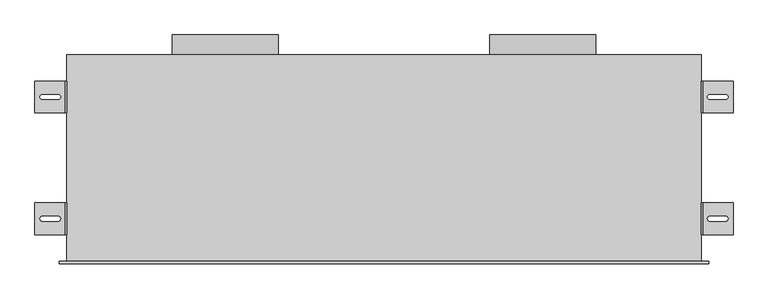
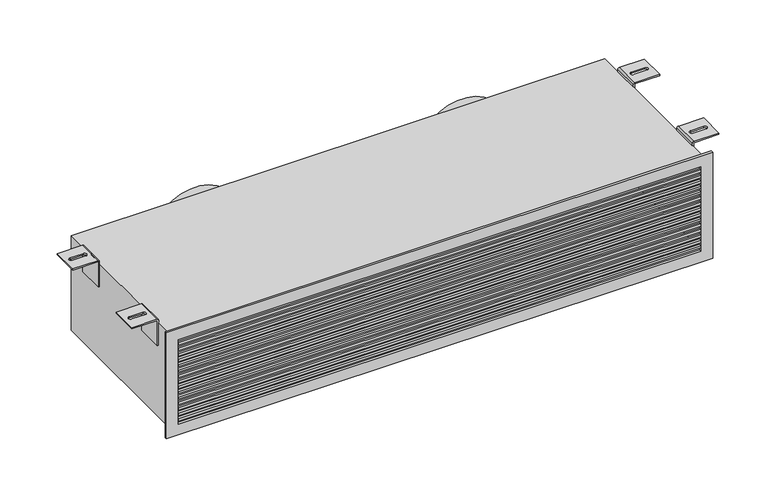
"""IFC4 building model written with IfcOpenShell, lengths in millimetres: air terminal geometry, EOL - Mural - 2 piquages : EOL-M2x200-1200x225-2."""

import ifcopenshell
import ifcopenshell.guid

model = None  # the IFC model being written
_history = None  # IfcOwnerHistory: only IFC2X3 demands one
_inside = {}  # id of a spatial element -> (the spatial element, [elements in it])
_under = {}  # id of a project, library or spatial element -> (it, [spatial elements below it])
_declared = {}  # id of a project -> (the project, [libraries it declares])
_typed = {}  # id of a type object -> (the type object, [elements of that type])
_made_of = {}  # id of a material, layer set ... -> (it, [elements and type objects made of it])


def new_model(schema):
    """Start an empty IFC model of exactly this schema.

    Asked for "IFC4X3", IfcOpenShell would pick the latest addendum, in which some entities
    have other attributes; the version numbers below select the first issue.
    IFC2X3 requires an IfcOwnerHistory on every rooted entity: one is made here for all.
    """
    global model, _history
    if schema == "IFC4X3":
        model = ifcopenshell.file(schema_version=(4, 3, 0, 0))
    else:
        model = ifcopenshell.file(schema=schema)
    _inside.clear()
    _under.clear()
    _declared.clear()
    _typed.clear()
    _made_of.clear()
    _history = None
    if model.schema == "IFC2X3":
        org = make("IfcOrganization", Name="unknown")
        user = make(
            "IfcPersonAndOrganization",
            ThePerson=make("IfcPerson", FamilyName="unknown"),
            TheOrganization=org,
        )
        app = make(
            "IfcApplication",
            ApplicationDeveloper=org,
            Version="unknown",
            ApplicationFullName="unknown",
            ApplicationIdentifier="unknown",
        )
        _history = make(
            "IfcOwnerHistory",
            OwningUser=user,
            OwningApplication=app,
            ChangeAction="ADDED",
            CreationDate=0,
        )
    return model


def make(cls, **values):
    """One entity of the class cls with the attributes given. An attribute that is None is left unset."""
    return model.create_entity(
        cls, **{name: value for name, value in values.items() if value is not None}
    )


def rooted(cls, **values):
    """An entity with a GlobalId (a new one), such as an element, a storey or a relation."""
    return make(cls, GlobalId=ifcopenshell.guid.new(), OwnerHistory=_history, **values)


def si_unit(unit_type, name, prefix=None):
    """IfcSIUnit, for example si_unit("LENGTHUNIT", "METRE", prefix="MILLI")."""
    return make("IfcSIUnit", UnitType=unit_type, Prefix=prefix, Name=name)


def assignment(units):
    """IfcUnitAssignment: the units of a project."""
    return None if units is None else make("IfcUnitAssignment", Units=units)


def point(xyz):
    """IfcCartesianPoint."""
    return None if xyz is None else make("IfcCartesianPoint", Coordinates=xyz)


def direction(xyz):
    """IfcDirection."""
    return None if xyz is None else make("IfcDirection", DirectionRatios=xyz)


def frame(location, z_axis=None, x_axis=None):
    """IfcAxis2Placement3D, a coordinate frame: its origin and axes. An axis left out is left unset."""
    return make(
        "IfcAxis2Placement3D",
        Location=point(location),
        Axis=direction(z_axis),
        RefDirection=direction(x_axis),
    )


def frame_2d(location, x_axis=None):
    """IfcAxis2Placement2D, a coordinate frame in the plane: its origin and x axis."""
    return make(
        "IfcAxis2Placement2D", Location=point(location), RefDirection=direction(x_axis)
    )


def origin():
    """The frame at (0, 0, 0) with its axes left unset."""
    return frame((0.0, 0.0, 0.0))


def place(relative_to, where):
    """IfcLocalPlacement: puts the frame where relative to a parent placement (None: the world)."""
    return make(
        "IfcLocalPlacement", PlacementRelTo=relative_to, RelativePlacement=where
    )


def context(
    kind, dimensions, precision=None, world=None, true_north=None, identifier=None
):
    """IfcGeometricRepresentationContext, for example the 3D "Model" context."""
    return make(
        "IfcGeometricRepresentationContext",
        ContextIdentifier=identifier,
        ContextType=kind,
        CoordinateSpaceDimension=dimensions,
        Precision=precision,
        WorldCoordinateSystem=world,
        TrueNorth=true_north,
    )


def project(units=None, contexts=None):
    """IfcProject with its units and contexts."""
    return rooted(
        "IfcProject",
        Name="project",
        RepresentationContexts=contexts,
        UnitsInContext=assignment(units),
    )


def spatial(cls, under=None, at=None, **own):
    """A site, building, storey or space (cls), placed at a placement, below another one or the project."""
    s = rooted(cls, ObjectPlacement=at, **own)
    if under is not None:
        _under.setdefault(under.id(), (under, []))[1].append(s)
    return s


def polyline(points):
    """IfcPolyline through the points."""
    return make("IfcPolyline", Points=[point(p) for p in points])


def circle_curve(where, radius):
    """IfcCircle in the frame where."""
    return make("IfcCircle", Position=where, Radius=radius)


def ellipse_curve(where, semi_axis1, semi_axis2):
    """IfcEllipse in the frame where."""
    return make(
        "IfcEllipse", Position=where, SemiAxis1=semi_axis1, SemiAxis2=semi_axis2
    )


def trimmed(basis, trim1, trim2, sense, master):
    """IfcTrimmedCurve: the piece of a basis curve between two trims."""
    return make(
        "IfcTrimmedCurve",
        BasisCurve=basis,
        Trim1=trim1,
        Trim2=trim2,
        SenseAgreement=sense,
        MasterRepresentation=master,
    )


def segment(curve, same_sense, transition):
    """IfcCompositeCurveSegment."""
    return make(
        "IfcCompositeCurveSegment",
        Transition=transition,
        SameSense=same_sense,
        ParentCurve=curve,
    )


def composite_curve(segments, self_intersect=None):
    """IfcCompositeCurve: segments joined end to end."""
    return make("IfcCompositeCurve", Segments=segments, SelfIntersect=self_intersect)


def outline(outer, holes=None, kind="AREA"):
    """IfcArbitraryClosedProfileDef: a profile drawn as a closed curve; with holes, ...WithVoids."""
    if holes is None:
        return make("IfcArbitraryClosedProfileDef", ProfileType=kind, OuterCurve=outer)
    return make(
        "IfcArbitraryProfileDefWithVoids",
        ProfileType=kind,
        OuterCurve=outer,
        InnerCurves=holes,
    )


def extrude(swept, where, along, depth):
    """IfcExtrudedAreaSolid: the profile swept, set in the frame where, extruded along a direction by depth."""
    return make(
        "IfcExtrudedAreaSolid",
        SweptArea=swept,
        Position=where,
        ExtrudedDirection=direction(along),
        Depth=depth,
    )


def shape(context_of_items, identifier, shape_type, items):
    """IfcShapeRepresentation: the items that make up one representation, for example the "Body"."""
    return make(
        "IfcShapeRepresentation",
        ContextOfItems=context_of_items,
        RepresentationIdentifier=identifier,
        RepresentationType=shape_type,
        Items=items,
    )


def source(mapping_origin, context_of_items, identifier, shape_type, items):
    """IfcRepresentationMap: a shape defined once, which mapped items show again and again."""
    return make(
        "IfcRepresentationMap",
        MappingOrigin=mapping_origin,
        MappedRepresentation=shape(context_of_items, identifier, shape_type, items),
    )


def transform(
    local_origin,
    x_axis=None,
    y_axis=None,
    z_axis=None,
    scale=None,
    scale2=None,
    scale3=None,
    uniform=True,
):
    """IfcCartesianTransformationOperator3D, or its non-uniform kind. x_axis, y_axis, z_axis: its Axis1, 2, 3."""
    if uniform:
        return make(
            "IfcCartesianTransformationOperator3D",
            Axis1=direction(x_axis),
            Axis2=direction(y_axis),
            LocalOrigin=point(local_origin),
            Scale=scale,
            Axis3=direction(z_axis),
        )
    return make(
        "IfcCartesianTransformationOperator3DnonUniform",
        Axis1=direction(x_axis),
        Axis2=direction(y_axis),
        LocalOrigin=point(local_origin),
        Scale=scale,
        Axis3=direction(z_axis),
        Scale2=scale2,
        Scale3=scale3,
    )


def mapped(mapping_source, mapping_target):
    """IfcMappedItem: shows the shape of a source again, moved by a transform."""
    return make(
        "IfcMappedItem", MappingSource=mapping_source, MappingTarget=mapping_target
    )


def made_of(thing, what):
    """Note that an element or type object is made of a material, layer set ...; save() writes the relation."""
    if what is not None:
        _made_of.setdefault(what.id(), (what, []))[1].append(thing)
    return thing


def element(
    cls,
    number,
    at=None,
    inside=None,
    cuts=None,
    type_object=None,
    material=None,
    context=None,
    identifier="Body",
    shape_type=None,
    held_by="IfcProductDefinitionShape",
    body=None,
    shapes=None,
    **own,
):
    """One element of the class cls, such as IfcWall. Its Tag is "e" and its number.

    at: its placement. inside: the storey or other place that contains it. cuts: it is an
    opening in that element (IfcRelVoidsElement). A single representation is given by context,
    identifier, shape_type and body (its items); several are given by shapes. held_by: the class
    of the entity that holds the representations. save() writes the other relations.
    """
    e = rooted(cls, Tag="e%d" % number, ObjectPlacement=at, **own)
    if body is not None:
        shapes = [shape(context, identifier, shape_type, body)]
    if shapes is not None:
        e.Representation = make(held_by, Representations=shapes)
    if inside is not None:
        _inside.setdefault(inside.id(), (inside, []))[1].append(e)
    if cuts is not None:
        rooted(
            "IfcRelVoidsElement", RelatingBuildingElement=cuts, RelatedOpeningElement=e
        )
    if type_object is not None:
        _typed.setdefault(type_object.id(), (type_object, []))[1].append(e)
    return made_of(e, material)


def aggregate(whole, parts):
    """IfcRelAggregates: a whole, such as a stair, and the parts it consists of."""
    return rooted("IfcRelAggregates", RelatingObject=whole, RelatedObjects=parts)


def save(model, path):
    """Write the relations noted so far, then the file.

    IfcRelAggregates (storeys below a building ...), IfcRelContainedInSpatialStructure (elements
    in a storey), IfcRelDefinesByType, IfcRelAssociatesMaterial and IfcRelDeclares: one each for
    every whole, place, type object, material and project.
    """
    for whole, parts in _under.values():
        aggregate(whole, parts)
    for where, things in _inside.values():
        rooted(
            "IfcRelContainedInSpatialStructure",
            RelatedElements=things,
            RelatingStructure=where,
        )
    for kind, things in _typed.values():
        rooted("IfcRelDefinesByType", RelatedObjects=things, RelatingType=kind)
    for what, things in _made_of.values():
        rooted("IfcRelAssociatesMaterial", RelatedObjects=things, RelatingMaterial=what)
    for by, libraries in _declared.values():
        rooted("IfcRelDeclares", RelatingContext=by, RelatedDefinitions=libraries)
    model.write(path)


def plane_surface(at):
    """IfcPlane: the flat surface through the origin of the frame at, square to its z axis."""
    return make("IfcPlane", Position=at)


def cylinder_surface(at, radius):
    """IfcCylindricalSurface: all points at the distance radius from the z axis of the frame at."""
    return make("IfcCylindricalSurface", Position=at, Radius=radius)


def revolved_surface(curve, axis_point, axis_direction):
    """IfcSurfaceOfRevolution: the curve turned about the line through axis_point along axis_direction."""
    return make(
        "IfcSurfaceOfRevolution",
        SweptCurve=make("IfcArbitraryOpenProfileDef", ProfileType="CURVE", Curve=curve),
        AxisPosition=make("IfcAxis1Placement", Location=point(axis_point), Axis=direction(axis_direction)),
    )


def extruded_surface(curve, direction_of_extrusion, depth):
    """IfcSurfaceOfLinearExtrusion: the curve pushed along a direction by depth."""
    return make(
        "IfcSurfaceOfLinearExtrusion",
        SweptCurve=make("IfcArbitraryOpenProfileDef", ProfileType="CURVE", Curve=curve),
        ExtrudedDirection=direction(direction_of_extrusion),
        Depth=depth,
    )


def advanced_brep(points, edges, surfaces, faces):
    """IfcAdvancedBrep: a solid bounded by faces that lie on surfaces and meet in shared edges.

    An edge is (start, end): straight between two places in points (the first is 0);
    or (start, end, curve); or (start, end, curve, False) where it runs against its curve.
    A face is (place in surfaces, loops), or (place, loops, False) where it looks against
    its surface's normal. A loop lists edges by number (the first is 1), with a minus sign
    where the edge is run from its end to its start. The first loop is the outer one.
    """
    corners = [point(p) for p in points]
    vertices = [make("IfcVertexPoint", VertexGeometry=c) for c in corners]
    made = []
    for start, end, *more in edges:
        made.append(
            make(
                "IfcEdgeCurve",
                EdgeStart=vertices[start],
                EdgeEnd=vertices[end],
                EdgeGeometry=more[0] if more else make("IfcPolyline", Points=[corners[start], corners[end]]),
                SameSense=more[1] if len(more) > 1 else True,
            )
        )
    hull = []
    for where, loops, *sense in faces:
        bounds = []
        for j, loop in enumerate(loops):
            ring = [make("IfcOrientedEdge", EdgeElement=made[abs(k) - 1], Orientation=k > 0) for k in loop]
            bounds.append(
                make(
                    "IfcFaceOuterBound" if j == 0 else "IfcFaceBound",
                    Bound=make("IfcEdgeLoop", EdgeList=ring),
                    Orientation=True,
                )
            )
        hull.append(make("IfcAdvancedFace", Bounds=bounds, FaceSurface=surfaces[where], SameSense=sense[0] if sense else True))
    return make("IfcAdvancedBrep", Outer=make("IfcClosedShell", CfsFaces=hull))


def air_terminal_643d013f(model_context):
    return source(origin(), model_context, "Body", "SolidModel", [
        advanced_brep(
        [(604.0013366, 110.0, 121.5), (660.0, 110.0, 121.5), (660.0, 110.0, 118.5), (604.0, 110.0, 118.5), (603.0, 110.0, 117.5), (603.0, 110.0, 58.5), (600.0, 110.0, 58.5), (600.0, 110.0, 117.4986634), (604.0013366, 50.0, 121.5), (600.0, 50.0, 117.4986634), (600.0, 50.0, 58.5), (603.0, 50.0, 58.5), (603.0, 50.0, 117.5), (604.0, 50.0, 118.5), (660.0, 50.0, 118.5), (660.0, 50.0, 121.5), (646.0287952, 75.4804328, 121.5), (616.0287952, 75.4804328, 121.5), (616.0287952, 84.4804328, 121.5), (646.0287952, 84.4804328, 121.5), (616.0287952, 75.4804328, 118.5), (646.0287952, 75.4804328, 118.5), (646.0287952, 84.4804328, 118.5), (616.0287952, 84.4804328, 118.5)],
        [
            (0, 1),
            (1, 2),
            (2, 3),
            (3, 4, circle_curve(frame((604.0, 110.0, 117.5), z_axis=(0.0, -1.0, 0.0), x_axis=(-1.0000000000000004, 0.0, 0.0)), 1.0)),
            (4, 5),
            (5, 6),
            (6, 7),
            (7, 0, circle_curve(frame((604.0013366, 110.0, 117.4986634), z_axis=(0.0, 1.0, 0.0), x_axis=(-1.0000000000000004, 0.0, 0.0)), 4.0013366)),
            (8, 9, circle_curve(frame((604.0013366, 50.0, 117.4986634), z_axis=(0.0, -1.0, 0.0), x_axis=(-1.0000000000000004, 0.0, 0.0)), 4.0013366)),
            (9, 10),
            (10, 11),
            (11, 12),
            (12, 13, circle_curve(frame((604.0, 50.0, 117.5), z_axis=(0.0, 1.0, 0.0), x_axis=(-1.0000000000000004, 0.0, 0.0)), 1.0)),
            (13, 14),
            (14, 15),
            (15, 8),
            (0, 8),
            (15, 1),
            (16, 17),
            (17, 18, circle_curve(frame((616.0287952, 79.9804328, 121.5), z_axis=(0.0, 0.0, -1.0), x_axis=(0.0, -1.0, 0.0)), 4.5)),
            (18, 19),
            (19, 16, circle_curve(frame((646.0287952, 79.9804328, 121.5), z_axis=(0.0, 0.0, -1.0), x_axis=(0.0, -1.0, 0.0)), 4.5)),
            (14, 2),
            (13, 3),
            (20, 21),
            (21, 22, ellipse_curve(frame((646.0287952, 79.9804328, 118.5), z_axis=(0.0, 0.0, 1.0), x_axis=(0.0, -1.0, 0.0)), 4.5, 4.5)),
            (22, 23),
            (23, 20, ellipse_curve(frame((616.0287952, 79.9804328, 118.5), z_axis=(0.0, 0.0, 1.0), x_axis=(0.0, -1.0, 0.0)), 4.5, 4.5)),
            (12, 4),
            (11, 5),
            (10, 6),
            (9, 7),
            (16, 21),
            (20, 17),
            (19, 22),
            (18, 23),
        ],
        [
            plane_surface(frame((660.0, 110.0, 121.5), z_axis=(0.0, 1.0, 0.0), x_axis=(1.0, 0.0, 0.0))),
            plane_surface(frame((660.0, 50.0, 121.5), z_axis=(0.0, -1.0, 0.0), x_axis=(-1.0, 0.0, 0.0))),
            plane_surface(frame((604.0013366, 110.0, 121.5), z_axis=(0.0, 0.0, 1.0), x_axis=(0.0, -1.0, 0.0))),
            plane_surface(frame((660.0, 110.0, 121.5), z_axis=(1.0, 0.0, 0.0), x_axis=(0.0, -1.0, 0.0))),
            plane_surface(frame((660.0, 110.0, 118.5), z_axis=(0.0, 0.0, -1.0), x_axis=(0.0, -1.0, 0.0))),
            revolved_surface(polyline([(603.0, 50.0, 117.5), (603.0, 110.00000000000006, 117.5)]), (604.0, 50.0, 117.5), (0.0, -1.0000000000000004, 0.0)),
            plane_surface(frame((603.0, 110.0, 117.5), z_axis=(1.0, 0.0, 0.0), x_axis=(0.0, -1.0, 0.0))),
            plane_surface(frame((603.0, 110.0, 58.5), z_axis=(0.0, 0.0, -1.0), x_axis=(0.0, -1.0, 0.0))),
            plane_surface(frame((600.0, 110.0, 58.5), z_axis=(-1.0, 0.0, 0.0), x_axis=(0.0, -1.0, 0.0))),
            cylinder_surface(frame((604.0013366, 50.0, 117.4986634), z_axis=(0.0, 1.0000000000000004, 0.0), x_axis=(-1.0000000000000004, 0.0, 0.0)), 4.0013366),
            plane_surface(frame((616.0287952, 75.4804328, 121.5), z_axis=(0.0, 1.0, 0.0), x_axis=(0.0, 0.0, -1.0))),
            extruded_surface(trimmed(ellipse_curve(frame((646.0287952, 79.9804328, 118.5), z_axis=(0.0, 0.0, 1.0), x_axis=(0.0, -1.0, 0.0)), 4.5, 4.5), [point((646.0287952, 75.4804328, 118.5))], [point((646.0287952, 84.4804328, 118.5))], True, "CARTESIAN"), (0.0, 0.0, -3.0), 3.0),
            plane_surface(frame((646.0287952, 84.4804328, 121.5), z_axis=(0.0, -1.0, 0.0), x_axis=(0.0, 0.0, -1.0))),
            extruded_surface(trimmed(ellipse_curve(frame((616.0287952, 79.9804328, 118.5), z_axis=(0.0, 0.0, 1.0), x_axis=(0.0, -1.0, 0.0)), 4.5, 4.5), [point((616.0287952, 84.4804328, 118.5))], [point((616.0287952, 75.4804328, 118.5))], True, "CARTESIAN"), (0.0, 0.0, -3.0), 3.0),
        ],
        [
            (0, [[1, 2, 3, 4, 5, 6, 7, 8]]),
            (1, [[9, 10, 11, 12, 13, 14, 15, 16]]),
            (2, [[-1, 17, -16, 18], [19, 20, 21, 22]]),
            (3, [[-2, -18, -15, 23]]),
            (4, [[-3, -23, -14, 24], [25, 26, 27, 28]]),
            (5, [[-4, -24, -13, 29]]),
            (6, [[-5, -29, -12, 30]]),
            (7, [[-6, -30, -11, 31]]),
            (8, [[-7, -31, -10, 32]]),
            (9, [[-8, -32, -9, -17]]),
            (10, [[33, -25, 34, -19]]),
            (11, [[-33, -22, 35, -26]]),
            (12, [[-35, -21, 36, -27]]),
            (13, [[-34, -28, -36, -20]]),
        ],
    ),
        advanced_brep(
        [(604.0013366, 340.0, 121.5), (660.0, 340.0, 121.5), (660.0, 340.0, 118.5), (604.0, 340.0, 118.5), (603.0, 340.0, 117.5), (603.0, 340.0, 58.5), (600.0, 340.0, 58.5), (600.0, 340.0, 117.4986634), (604.0013366, 280.0, 121.5), (600.0, 280.0, 117.4986634), (600.0, 280.0, 58.5), (603.0, 280.0, 58.5), (603.0, 280.0, 117.5), (604.0, 280.0, 118.5), (660.0, 280.0, 118.5), (660.0, 280.0, 121.5), (646.0287952, 305.4804328, 121.5), (616.0287952, 305.4804328, 121.5), (616.0287952, 314.4804328, 121.5), (646.0287952, 314.4804328, 121.5), (616.0287952, 305.4804328, 118.5), (646.0287952, 305.4804328, 118.5), (646.0287952, 314.4804328, 118.5), (616.0287952, 314.4804328, 118.5)],
        [
            (0, 1),
            (1, 2),
            (2, 3),
            (3, 4, circle_curve(frame((604.0, 340.0, 117.5), z_axis=(0.0, -1.0, 0.0), x_axis=(-1.0, 0.0, 0.0)), 1.0)),
            (4, 5),
            (5, 6),
            (6, 7),
            (7, 0, circle_curve(frame((604.0013366, 340.0, 117.4986634), z_axis=(0.0, 1.0, 0.0), x_axis=(-1.0, 0.0, 0.0)), 4.0013366)),
            (8, 9, circle_curve(frame((604.0013366, 280.0, 117.4986634), z_axis=(0.0, -1.0, 0.0), x_axis=(-1.0, 0.0, 0.0)), 4.0013366)),
            (9, 10),
            (10, 11),
            (11, 12),
            (12, 13, circle_curve(frame((604.0, 280.0, 117.5), z_axis=(0.0, 1.0, 0.0), x_axis=(-1.0, 0.0, 0.0)), 1.0)),
            (13, 14),
            (14, 15),
            (15, 8),
            (0, 8),
            (15, 1),
            (16, 17),
            (17, 18, circle_curve(frame((616.0287952, 309.9804328, 121.5), z_axis=(0.0, 0.0, -1.0), x_axis=(0.0, -1.0, 0.0)), 4.5)),
            (18, 19),
            (19, 16, circle_curve(frame((646.0287952, 309.9804328, 121.5), z_axis=(0.0, 0.0, -1.0), x_axis=(0.0, -1.0, 0.0)), 4.5)),
            (14, 2),
            (13, 3),
            (20, 21),
            (21, 22, ellipse_curve(frame((646.0287952, 309.9804328, 118.5), z_axis=(0.0, 0.0, 1.0), x_axis=(0.0, -1.0, 0.0)), 4.5, 4.5)),
            (22, 23),
            (23, 20, ellipse_curve(frame((616.0287952, 309.9804328, 118.5), z_axis=(0.0, 0.0, 1.0), x_axis=(0.0, -1.0, 0.0)), 4.5, 4.5)),
            (12, 4),
            (11, 5),
            (10, 6),
            (9, 7),
            (16, 21),
            (20, 17),
            (19, 22),
            (18, 23),
        ],
        [
            plane_surface(frame((660.0, 340.0, 121.5), z_axis=(0.0, 1.0, 0.0), x_axis=(1.0, 0.0, 0.0))),
            plane_surface(frame((660.0, 280.0, 121.5), z_axis=(0.0, -1.0, 0.0), x_axis=(-1.0, 0.0, 0.0))),
            plane_surface(frame((604.0013366, 340.0, 121.5), z_axis=(0.0, 0.0, 1.0), x_axis=(0.0, -1.0, 0.0))),
            plane_surface(frame((660.0, 340.0, 121.5), z_axis=(1.0, 0.0, 0.0), x_axis=(0.0, -1.0, 0.0))),
            plane_surface(frame((660.0, 340.0, 118.5), z_axis=(0.0, 0.0, -1.0), x_axis=(0.0, -1.0, 0.0))),
            revolved_surface(polyline([(603.0, 280.0, 117.5), (603.0, 340.0, 117.5)]), (604.0, 280.0, 117.5), (0.0, -1.0, 0.0)),
            plane_surface(frame((603.0, 340.0, 117.5), z_axis=(1.0, 0.0, 0.0), x_axis=(0.0, -1.0, 0.0))),
            plane_surface(frame((603.0, 340.0, 58.5), z_axis=(0.0, 0.0, -1.0), x_axis=(0.0, -1.0, 0.0))),
            plane_surface(frame((600.0, 340.0, 58.5), z_axis=(-1.0, 0.0, 0.0), x_axis=(0.0, -1.0, 0.0))),
            cylinder_surface(frame((604.0013366, 280.0, 117.4986634), z_axis=(0.0, 1.0, 0.0), x_axis=(-1.0, 0.0, 0.0)), 4.0013366),
            plane_surface(frame((616.0287952, 305.4804328, 121.5), z_axis=(0.0, 1.0, 0.0), x_axis=(0.0, 0.0, -1.0))),
            extruded_surface(trimmed(ellipse_curve(frame((646.0287952, 309.9804328, 118.5), z_axis=(0.0, 0.0, 1.0), x_axis=(0.0, -1.0, 0.0)), 4.5, 4.5), [point((646.0287952, 305.4804328, 118.5))], [point((646.0287952, 314.4804328, 118.5))], True, "CARTESIAN"), (0.0, 0.0, -3.0), 3.0),
            plane_surface(frame((646.0287952, 314.4804328, 121.5), z_axis=(0.0, -1.0, 0.0), x_axis=(0.0, 0.0, -1.0))),
            extruded_surface(trimmed(ellipse_curve(frame((616.0287952, 309.9804328, 118.5), z_axis=(0.0, 0.0, 1.0), x_axis=(0.0, -1.0, 0.0)), 4.5, 4.5), [point((616.0287952, 314.4804328, 118.5))], [point((616.0287952, 305.4804328, 118.5))], True, "CARTESIAN"), (0.0, 0.0, -3.0), 3.0),
        ],
        [
            (0, [[1, 2, 3, 4, 5, 6, 7, 8]]),
            (1, [[9, 10, 11, 12, 13, 14, 15, 16]]),
            (2, [[-1, 17, -16, 18], [19, 20, 21, 22]]),
            (3, [[-2, -18, -15, 23]]),
            (4, [[-3, -23, -14, 24], [25, 26, 27, 28]]),
            (5, [[-4, -24, -13, 29]]),
            (6, [[-5, -29, -12, 30]]),
            (7, [[-6, -30, -11, 31]]),
            (8, [[-7, -31, -10, 32]]),
            (9, [[-8, -32, -9, -17]]),
            (10, [[33, -25, 34, -19]]),
            (11, [[-33, -22, 35, -26]]),
            (12, [[-35, -21, 36, -27]]),
            (13, [[-34, -28, -36, -20]]),
        ],
    ),
        advanced_brep(
        [(-604.0013366, 50.0, 121.5), (-660.0, 50.0, 121.5), (-660.0, 50.0, 118.5), (-604.0, 50.0, 118.5), (-603.0, 50.0, 117.5), (-603.0, 50.0, 58.5), (-600.0, 50.0, 58.5), (-600.0, 50.0, 117.4986634), (-604.0013366, 110.0, 121.5), (-600.0, 110.0, 117.4986634), (-600.0, 110.0, 58.5), (-603.0, 110.0, 58.5), (-603.0, 110.0, 117.5), (-604.0, 110.0, 118.5), (-660.0, 110.0, 118.5), (-660.0, 110.0, 121.5), (-646.0287952, 84.5195672, 121.5), (-616.0287952, 84.5195672, 121.5), (-616.0287952, 75.5195672, 121.5), (-646.0287952, 75.5195672, 121.5), (-616.0287952, 84.5195672, 118.5), (-646.0287952, 84.5195672, 118.5), (-646.0287952, 75.5195672, 118.5), (-616.0287952, 75.5195672, 118.5)],
        [
            (0, 1),
            (1, 2),
            (2, 3),
            (3, 4, circle_curve(frame((-604.0, 50.0, 117.5), z_axis=(0.0, 1.0, 0.0), x_axis=(1.0, 0.0, 0.0)), 1.0)),
            (4, 5),
            (5, 6),
            (6, 7),
            (7, 0, circle_curve(frame((-604.0013366, 50.0, 117.4986634), z_axis=(0.0, -1.0, 0.0), x_axis=(1.0, 0.0, 0.0)), 4.0013366)),
            (8, 9, circle_curve(frame((-604.0013366, 110.0, 117.4986634), z_axis=(0.0, 1.0, 0.0), x_axis=(1.0, 0.0, 0.0)), 4.0013366)),
            (9, 10),
            (10, 11),
            (11, 12),
            (12, 13, circle_curve(frame((-604.0, 110.0, 117.5), z_axis=(0.0, -1.0, 0.0), x_axis=(1.0, 0.0, 0.0)), 1.0)),
            (13, 14),
            (14, 15),
            (15, 8),
            (0, 8),
            (15, 1),
            (16, 17),
            (17, 18, circle_curve(frame((-616.0287952, 80.0195672, 121.5), z_axis=(0.0, 0.0, -1.0), x_axis=(0.0, 1.0, 0.0)), 4.5)),
            (18, 19),
            (19, 16, circle_curve(frame((-646.0287952, 80.0195672, 121.5), z_axis=(0.0, 0.0, -1.0), x_axis=(0.0, 1.0, 0.0)), 4.5)),
            (14, 2),
            (13, 3),
            (20, 21),
            (21, 22, ellipse_curve(frame((-646.0287952, 80.0195672, 118.5), z_axis=(0.0, 0.0, 1.0), x_axis=(0.0, 1.0, 0.0)), 4.5, 4.5)),
            (22, 23),
            (23, 20, ellipse_curve(frame((-616.0287952, 80.0195672, 118.5), z_axis=(0.0, 0.0, 1.0), x_axis=(0.0, 1.0, 0.0)), 4.5, 4.5)),
            (12, 4),
            (11, 5),
            (10, 6),
            (9, 7),
            (16, 21),
            (20, 17),
            (19, 22),
            (18, 23),
        ],
        [
            plane_surface(frame((-660.0, 50.0, 121.5), z_axis=(0.0, -1.0, 0.0), x_axis=(-1.0, 0.0, 0.0))),
            plane_surface(frame((-660.0, 110.0, 121.5), z_axis=(0.0, 1.0, 0.0), x_axis=(1.0, 0.0, 0.0))),
            plane_surface(frame((-604.0013366, 50.0, 121.5), z_axis=(0.0, 0.0, 1.0), x_axis=(0.0, 1.0, 0.0))),
            plane_surface(frame((-660.0, 50.0, 121.5), z_axis=(-1.0, 0.0, 0.0), x_axis=(0.0, 1.0, 0.0))),
            plane_surface(frame((-660.0, 50.0, 118.5), z_axis=(0.0, 0.0, -1.0), x_axis=(0.0, 1.0, 0.0))),
            revolved_surface(polyline([(-603.0, 110.0, 117.5), (-603.0, 50.0, 117.5)]), (-604.0, 110.0, 117.5), (0.0, 1.0, 0.0)),
            plane_surface(frame((-603.0, 50.0, 117.5), z_axis=(-1.0, 0.0, 0.0), x_axis=(0.0, 1.0, 0.0))),
            plane_surface(frame((-603.0, 50.0, 58.5), z_axis=(0.0, 0.0, -1.0), x_axis=(0.0, 1.0, 0.0))),
            plane_surface(frame((-600.0, 50.0, 58.5), z_axis=(1.0, 0.0, 0.0), x_axis=(0.0, 1.0, 0.0))),
            cylinder_surface(frame((-604.0013366, 110.0, 117.4986634), z_axis=(0.0, -1.0, 0.0), x_axis=(1.0, 0.0, 0.0)), 4.0013366),
            plane_surface(frame((-616.0287952, 84.5195672, 121.5), z_axis=(0.0, -1.0, 0.0), x_axis=(0.0, 0.0, -1.0))),
            extruded_surface(trimmed(ellipse_curve(frame((-646.0287952, 80.0195672, 118.5), z_axis=(0.0, 0.0, 1.0), x_axis=(0.0, 1.0, 0.0)), 4.5, 4.5), [point((-646.0287952, 84.5195672, 118.5))], [point((-646.0287952, 75.5195672, 118.5))], True, "CARTESIAN"), (0.0, 0.0, -3.0), 3.0),
            plane_surface(frame((-646.0287952, 75.5195672, 121.5), z_axis=(0.0, 1.0, 0.0), x_axis=(0.0, 0.0, -1.0))),
            extruded_surface(trimmed(ellipse_curve(frame((-616.0287952, 80.0195672, 118.5), z_axis=(0.0, 0.0, 1.0), x_axis=(0.0, 1.0, 0.0)), 4.5, 4.5), [point((-616.0287952, 75.5195672, 118.5))], [point((-616.0287952, 84.5195672, 118.5))], True, "CARTESIAN"), (0.0, 0.0, -3.0), 3.0),
        ],
        [
            (0, [[1, 2, 3, 4, 5, 6, 7, 8]]),
            (1, [[9, 10, 11, 12, 13, 14, 15, 16]]),
            (2, [[-1, 17, -16, 18], [19, 20, 21, 22]]),
            (3, [[-2, -18, -15, 23]]),
            (4, [[-3, -23, -14, 24], [25, 26, 27, 28]]),
            (5, [[-4, -24, -13, 29]]),
            (6, [[-5, -29, -12, 30]]),
            (7, [[-6, -30, -11, 31]]),
            (8, [[-7, -31, -10, 32]]),
            (9, [[-8, -32, -9, -17]]),
            (10, [[33, -25, 34, -19]]),
            (11, [[-33, -22, 35, -26]]),
            (12, [[-35, -21, 36, -27]]),
            (13, [[-34, -28, -36, -20]]),
        ],
    ),
        advanced_brep(
        [(-604.0013366, 280.0, 121.5), (-660.0, 280.0, 121.5), (-660.0, 280.0, 118.5), (-604.0, 280.0, 118.5), (-603.0, 280.0, 117.5), (-603.0, 280.0, 58.5), (-600.0, 280.0, 58.5), (-600.0, 280.0, 117.4986634), (-604.0013366, 340.0, 121.5), (-600.0, 340.0, 117.4986634), (-600.0, 340.0, 58.5), (-603.0, 340.0, 58.5), (-603.0, 340.0, 117.5), (-604.0, 340.0, 118.5), (-660.0, 340.0, 118.5), (-660.0, 340.0, 121.5), (-646.0287952, 314.5195672, 121.5), (-616.0287952, 314.5195672, 121.5), (-616.0287952, 305.5195672, 121.5), (-646.0287952, 305.5195672, 121.5), (-616.0287952, 314.5195672, 118.5), (-646.0287952, 314.5195672, 118.5), (-646.0287952, 305.5195672, 118.5), (-616.0287952, 305.5195672, 118.5)],
        [
            (0, 1),
            (1, 2),
            (2, 3),
            (3, 4, circle_curve(frame((-604.0, 280.0, 117.5), z_axis=(0.0, 1.0, 0.0), x_axis=(1.0, 0.0, 0.0)), 1.0)),
            (4, 5),
            (5, 6),
            (6, 7),
            (7, 0, circle_curve(frame((-604.0013366, 280.0, 117.4986634), z_axis=(0.0, -1.0, 0.0), x_axis=(1.0, 0.0, 0.0)), 4.0013366)),
            (8, 9, circle_curve(frame((-604.0013366, 340.0, 117.4986634), z_axis=(0.0, 1.0, 0.0), x_axis=(1.0, 0.0, 0.0)), 4.0013366)),
            (9, 10),
            (10, 11),
            (11, 12),
            (12, 13, circle_curve(frame((-604.0, 340.0, 117.5), z_axis=(0.0, -1.0, 0.0), x_axis=(1.0, 0.0, 0.0)), 1.0)),
            (13, 14),
            (14, 15),
            (15, 8),
            (0, 8),
            (15, 1),
            (16, 17),
            (17, 18, circle_curve(frame((-616.0287952, 310.0195672, 121.5), z_axis=(0.0, 0.0, -1.0), x_axis=(0.0, 1.0, 0.0)), 4.5)),
            (18, 19),
            (19, 16, circle_curve(frame((-646.0287952, 310.0195672, 121.5), z_axis=(0.0, 0.0, -1.0), x_axis=(0.0, 1.0, 0.0)), 4.5)),
            (14, 2),
            (13, 3),
            (20, 21),
            (21, 22, ellipse_curve(frame((-646.0287952, 310.0195672, 118.5), z_axis=(0.0, 0.0, 1.0), x_axis=(0.0, 1.0, 0.0)), 4.5, 4.5)),
            (22, 23),
            (23, 20, ellipse_curve(frame((-616.0287952, 310.0195672, 118.5), z_axis=(0.0, 0.0, 1.0), x_axis=(0.0, 1.0, 0.0)), 4.5, 4.5)),
            (12, 4),
            (11, 5),
            (10, 6),
            (9, 7),
            (16, 21),
            (20, 17),
            (19, 22),
            (18, 23),
        ],
        [
            plane_surface(frame((-660.0, 280.0, 121.5), z_axis=(0.0, -1.0, 0.0), x_axis=(-1.0, 0.0, 0.0))),
            plane_surface(frame((-660.0, 340.0, 121.5), z_axis=(0.0, 1.0, 0.0), x_axis=(1.0, 0.0, 0.0))),
            plane_surface(frame((-604.0013366, 280.0, 121.5), z_axis=(0.0, 0.0, 1.0), x_axis=(0.0, 1.0, 0.0))),
            plane_surface(frame((-660.0, 280.0, 121.5), z_axis=(-1.0, 0.0, 0.0), x_axis=(0.0, 1.0, 0.0))),
            plane_surface(frame((-660.0, 280.0, 118.5), z_axis=(0.0, 0.0, -1.0), x_axis=(0.0, 1.0, 0.0))),
            revolved_surface(polyline([(-603.0, 340.0, 117.5), (-603.0, 280.0, 117.5)]), (-604.0, 340.0, 117.5), (0.0, 1.0, 0.0)),
            plane_surface(frame((-603.0, 280.0, 117.5), z_axis=(-1.0, 0.0, 0.0), x_axis=(0.0, 1.0, 0.0))),
            plane_surface(frame((-603.0, 280.0, 58.5), z_axis=(0.0, 0.0, -1.0), x_axis=(0.0, 1.0, 0.0))),
            plane_surface(frame((-600.0, 280.0, 58.5), z_axis=(1.0, 0.0, 0.0), x_axis=(0.0, 1.0, 0.0))),
            cylinder_surface(frame((-604.0013366, 340.0, 117.4986634), z_axis=(0.0, -1.0, 0.0), x_axis=(1.0, 0.0, 0.0)), 4.0013366),
            plane_surface(frame((-616.0287952, 314.5195672, 121.5), z_axis=(0.0, -1.0, 0.0), x_axis=(0.0, 0.0, -1.0))),
            extruded_surface(trimmed(ellipse_curve(frame((-646.0287952, 310.0195672, 118.5), z_axis=(0.0, 0.0, 1.0), x_axis=(0.0, 1.0, 0.0)), 4.5, 4.5), [point((-646.0287952, 314.5195672, 118.5))], [point((-646.0287952, 305.5195672, 118.5))], True, "CARTESIAN"), (0.0, 0.0, -3.0), 3.0),
            plane_surface(frame((-646.0287952, 305.5195672, 121.5), z_axis=(0.0, 1.0, 0.0), x_axis=(0.0, 0.0, -1.0))),
            extruded_surface(trimmed(ellipse_curve(frame((-616.0287952, 310.0195672, 118.5), z_axis=(0.0, 0.0, 1.0), x_axis=(0.0, 1.0, 0.0)), 4.5, 4.5), [point((-616.0287952, 305.5195672, 118.5))], [point((-616.0287952, 314.5195672, 118.5))], True, "CARTESIAN"), (0.0, 0.0, -3.0), 3.0),
        ],
        [
            (0, [[1, 2, 3, 4, 5, 6, 7, 8]]),
            (1, [[9, 10, 11, 12, 13, 14, 15, 16]]),
            (2, [[-1, 17, -16, 18], [19, 20, 21, 22]]),
            (3, [[-2, -18, -15, 23]]),
            (4, [[-3, -23, -14, 24], [25, 26, 27, 28]]),
            (5, [[-4, -24, -13, 29]]),
            (6, [[-5, -29, -12, 30]]),
            (7, [[-6, -30, -11, 31]]),
            (8, [[-7, -31, -10, 32]]),
            (9, [[-8, -32, -9, -17]]),
            (10, [[33, -25, 34, -19]]),
            (11, [[-33, -22, 35, -26]]),
            (12, [[-35, -21, 36, -27]]),
            (13, [[-34, -28, -36, -20]]),
        ],
    ),
        extrude(outline(composite_curve([segment(trimmed(circle_curve(frame_2d((0.0, 300.0)), 100.0), [point((0.0, 200.0))], [point((0.0, 400.0))], False, "CARTESIAN"), True, "CONTINUOUS"), segment(trimmed(circle_curve(frame_2d((0.0, 300.0)), 100.0), [point((0.0, 400.0))], [point((0.0, 200.0))], False, "CARTESIAN"), True, "CONTINUOUS")], self_intersect=False), holes=[composite_curve([segment(trimmed(circle_curve(frame_2d((0.0, 300.0)), 99.0), [point((0.0, 399.0))], [point((0.0, 201.0))], True, "CARTESIAN"), True, "CONTINUOUS"), segment(trimmed(circle_curve(frame_2d((0.0, 300.0)), 99.0), [point((0.0, 201.0))], [point((0.0, 399.0))], True, "CARTESIAN"), True, "CONTINUOUS")], self_intersect=False)]), frame((0.0, 390.0, 0.0), z_axis=(0.0, 1.0, 0.0), x_axis=(0.0, 0.0, 1.0)), (0.0, 0.0, 1.0), 37.5),
        extrude(outline(composite_curve([segment(trimmed(circle_curve(frame_2d((0.0, -300.0)), 100.0), [point((0.0, -400.0))], [point((0.0, -200.0))], False, "CARTESIAN"), True, "CONTINUOUS"), segment(trimmed(circle_curve(frame_2d((0.0, -300.0)), 100.0), [point((0.0, -200.0))], [point((0.0, -400.0))], False, "CARTESIAN"), True, "CONTINUOUS")], self_intersect=False), holes=[composite_curve([segment(trimmed(circle_curve(frame_2d((0.0, -300.0)), 99.0), [point((0.0, -201.0))], [point((0.0, -399.0))], True, "CARTESIAN"), True, "CONTINUOUS"), segment(trimmed(circle_curve(frame_2d((0.0, -300.0)), 99.0), [point((0.0, -399.0))], [point((0.0, -201.0))], True, "CARTESIAN"), True, "CONTINUOUS")], self_intersect=False)]), frame((0.0, 390.0, 0.0), z_axis=(0.0, 1.0, 0.0), x_axis=(0.0, 0.0, 1.0)), (0.0, 0.0, 1.0), 37.5),
        extrude(outline(polyline([(587.5, 0.0), (587.5, -5.0), (-587.5, -5.0), (-587.5, 0.0), (587.5, 0.0)])), frame((0.0, 0.0, 87.15), z_axis=(0.0, 0.0, 1.0), x_axis=(1.0, 0.0, 0.0)), (0.0, 0.0, 1.0), 5.6),
        extrude(outline(polyline([(587.5, 0.0), (587.5, -5.0), (-587.5, -5.0), (-587.5, 0.0), (587.5, 0.0)])), frame((0.0, 0.0, 74.3), z_axis=(0.0, 0.0, 1.0), x_axis=(1.0, 0.0, 0.0)), (0.0, 0.0, 1.0), 5.6),
        extrude(outline(polyline([(587.5, 0.0), (587.5, -5.0), (-587.5, -5.0), (-587.5, 0.0), (587.5, 0.0)])), frame((0.0, 0.0, 61.45), z_axis=(0.0, 0.0, 1.0), x_axis=(1.0, 0.0, 0.0)), (0.0, 0.0, 1.0), 5.6),
        extrude(outline(polyline([(587.5, 0.0), (587.5, -5.0), (-587.5, -5.0), (-587.5, 0.0), (587.5, 0.0)])), frame((0.0, 0.0, 48.6), z_axis=(0.0, 0.0, 1.0), x_axis=(1.0, 0.0, 0.0)), (0.0, 0.0, 1.0), 5.6),
        extrude(outline(polyline([(587.5, 0.0), (587.5, -5.0), (-587.5, -5.0), (-587.5, 0.0), (587.5, 0.0)])), frame((0.0, 0.0, 35.75), z_axis=(0.0, 0.0, 1.0), x_axis=(1.0, 0.0, 0.0)), (0.0, 0.0, 1.0), 5.6),
        extrude(outline(polyline([(587.5, 0.0), (587.5, -5.0), (-587.5, -5.0), (-587.5, 0.0), (587.5, 0.0)])), frame((0.0, 0.0, 22.9), z_axis=(0.0, 0.0, 1.0), x_axis=(1.0, 0.0, 0.0)), (0.0, 0.0, 1.0), 5.6),
        extrude(outline(polyline([(587.5, 0.0), (587.5, -5.0), (-587.5, -5.0), (-587.5, 0.0), (587.5, 0.0)])), frame((0.0, 0.0, 10.05), z_axis=(0.0, 0.0, 1.0), x_axis=(1.0, 0.0, 0.0)), (0.0, 0.0, 1.0), 5.6),
        extrude(outline(polyline([(587.5, 0.0), (587.5, -5.0), (-587.5, -5.0), (-587.5, 0.0), (587.5, 0.0)])), frame((0.0, 0.0, -2.8), z_axis=(0.0, 0.0, 1.0), x_axis=(1.0, 0.0, 0.0)), (0.0, 0.0, 1.0), 5.6),
        extrude(outline(polyline([(587.5, 0.0), (587.5, -5.0), (-587.5, -5.0), (-587.5, 0.0), (587.5, 0.0)])), frame((0.0, 0.0, -15.65), z_axis=(0.0, 0.0, 1.0), x_axis=(1.0, 0.0, 0.0)), (0.0, 0.0, 1.0), 5.6),
        extrude(outline(polyline([(587.5, 0.0), (587.5, -5.0), (-587.5, -5.0), (-587.5, 0.0), (587.5, 0.0)])), frame((0.0, 0.0, -28.5), z_axis=(0.0, 0.0, 1.0), x_axis=(1.0, 0.0, 0.0)), (0.0, 0.0, 1.0), 5.6),
        extrude(outline(polyline([(587.5, 0.0), (587.5, -5.0), (-587.5, -5.0), (-587.5, 0.0), (587.5, 0.0)])), frame((0.0, 0.0, -41.35), z_axis=(0.0, 0.0, 1.0), x_axis=(1.0, 0.0, 0.0)), (0.0, 0.0, 1.0), 5.6),
        extrude(outline(polyline([(587.5, 0.0), (587.5, -5.0), (-587.5, -5.0), (-587.5, 0.0), (587.5, 0.0)])), frame((0.0, 0.0, -54.2), z_axis=(0.0, 0.0, 1.0), x_axis=(1.0, 0.0, 0.0)), (0.0, 0.0, 1.0), 5.6),
        extrude(outline(polyline([(587.5, 0.0), (587.5, -5.0), (-587.5, -5.0), (-587.5, 0.0), (587.5, 0.0)])), frame((0.0, 0.0, -67.05), z_axis=(0.0, 0.0, 1.0), x_axis=(1.0, 0.0, 0.0)), (0.0, 0.0, 1.0), 5.6),
        extrude(outline(polyline([(587.5, 0.0), (587.5, -5.0), (-587.5, -5.0), (-587.5, 0.0), (587.5, 0.0)])), frame((0.0, 0.0, -79.9), z_axis=(0.0, 0.0, 1.0), x_axis=(1.0, 0.0, 0.0)), (0.0, 0.0, 1.0), 5.6),
        extrude(outline(polyline([(587.5, 0.0), (587.5, -5.0), (-587.5, -5.0), (-587.5, 0.0), (587.5, 0.0)])), frame((0.0, 0.0, -92.75), z_axis=(0.0, 0.0, 1.0), x_axis=(1.0, 0.0, 0.0)), (0.0, 0.0, 1.0), 5.6),
        extrude(outline(polyline([(126.0, 614.0), (126.0, -614.0), (-126.0, -614.0), (-126.0, 614.0), (126.0, 614.0)]), holes=[polyline([(100.0, 587.5), (-100.0, 587.5), (-100.0, -587.5), (100.0, -587.5), (100.0, 587.5)])]), frame((0.0, -5.0, 0.0), z_axis=(0.0, 1.0, 0.0), x_axis=(0.0, 0.0, 1.0)), (0.0, 0.0, 1.0), 5.0),
        advanced_brep(
        [(600.0, 390.0, 112.5), (-600.0, 390.0, 112.5), (-600.0, 0.0, 112.5), (600.0, 0.0, 112.5), (600.0, 390.0, -112.5), (600.0, 0.0, -112.5), (-600.0, 0.0, -112.5), (-600.0, 390.0, -112.5), (201.0, 390.0, 0.0), (399.0, 390.0, 0.0), (-399.0, 390.0, 0.0), (-201.0, 390.0, 0.0), (-595.0, 0.0, 107.5), (595.0, 0.0, 107.5), (595.0, 0.0, -107.5), (-595.0, 0.0, -107.5), (595.0, 385.0, 107.5), (-595.0, 385.0, 107.5), (595.0, 385.0, -107.5), (-595.0, 385.0, -107.5), (399.0, 385.0, 0.0), (201.0, 385.0, 0.0), (-201.0, 385.0, 0.0), (-399.0, 385.0, 0.0)],
        [
            (0, 1),
            (1, 2),
            (2, 3),
            (3, 0),
            (4, 5),
            (5, 6),
            (6, 7),
            (7, 4),
            (0, 4),
            (7, 1),
            (8, 9, circle_curve(frame((300.0, 390.0, 0.0), z_axis=(0.0, -1.0, 0.0), x_axis=(1.0, 0.0, 0.0)), 99.0)),
            (9, 8, circle_curve(frame((300.0, 390.0, 0.0), z_axis=(0.0, -1.0, 0.0), x_axis=(1.0, 0.0, 0.0)), 99.0)),
            (10, 11, circle_curve(frame((-300.0, 390.0, 0.0), z_axis=(0.0, -1.0, 0.0), x_axis=(1.0, 0.0, 0.0)), 99.0)),
            (11, 10, circle_curve(frame((-300.0, 390.0, 0.0), z_axis=(0.0, -1.0, 0.0), x_axis=(1.0, 0.0, 0.0)), 99.0)),
            (6, 2),
            (5, 3),
            (12, 13),
            (13, 14),
            (14, 15),
            (15, 12),
            (16, 13),
            (12, 17),
            (17, 16),
            (18, 19),
            (19, 15),
            (14, 18),
            (17, 19),
            (18, 16),
            (20, 21, circle_curve(frame((300.0, 385.0, 0.0), z_axis=(0.0, 1.0, 0.0), x_axis=(1.0, 0.0, 0.0)), 99.0)),
            (21, 20, circle_curve(frame((300.0, 385.0, 0.0), z_axis=(0.0, 1.0, 0.0), x_axis=(1.0, 0.0, 0.0)), 99.0)),
            (22, 23, circle_curve(frame((-300.0, 385.0, 0.0), z_axis=(0.0, 1.0, 0.0), x_axis=(1.0, 0.0, 0.0)), 99.0)),
            (23, 22, circle_curve(frame((-300.0, 385.0, 0.0), z_axis=(0.0, 1.0, 0.0), x_axis=(1.0, 0.0, 0.0)), 99.0)),
            (8, 21),
            (20, 9),
            (10, 23),
            (22, 11),
        ],
        [
            plane_surface(frame((-600.0, 390.0, 112.5), z_axis=(0.0, 0.0, 1.0), x_axis=(-1.0, 0.0, 0.0))),
            plane_surface(frame((-600.0, 390.0, -112.5), z_axis=(0.0, 0.0, -1.0), x_axis=(1.0, 0.0, 0.0))),
            plane_surface(frame((600.0, 390.0, 112.5), z_axis=(0.0, 1.0, 0.0), x_axis=(0.0, 0.0, -1.0))),
            plane_surface(frame((-600.0, 390.0, 112.5), z_axis=(-1.0, 0.0, 0.0), x_axis=(0.0, 0.0, -1.0))),
            plane_surface(frame((-600.0, 0.0, 112.5), z_axis=(0.0, -1.0, 0.0), x_axis=(0.0, 0.0, -1.0))),
            plane_surface(frame((600.0, 0.0, 112.5), z_axis=(1.0, 0.0, 0.0), x_axis=(0.0, 0.0, -1.0))),
            plane_surface(frame((-595.0, 385.0, 107.5), z_axis=(0.0, 0.0, -1.0), x_axis=(-1.0, 0.0, 0.0))),
            plane_surface(frame((-595.0, 385.0, -107.5), z_axis=(0.0, 0.0, 1.0), x_axis=(1.0, 0.0, 0.0))),
            plane_surface(frame((595.0, 385.0, 107.5), z_axis=(0.0, -1.0, 0.0), x_axis=(0.0, 0.0, -1.0))),
            plane_surface(frame((-595.0, 385.0, 107.5), z_axis=(1.0, 0.0, 0.0), x_axis=(0.0, 0.0, -1.0))),
            plane_surface(frame((595.0, 0.0, 107.5), z_axis=(-1.0, 0.0, 0.0), x_axis=(0.0, 0.0, -1.0))),
            revolved_surface(polyline([(399.0, 385.0, 0.0), (399.0, 390.0, 0.0)]), (300.0, 427.5, 0.0), (0.0, -1.0, 0.0)),
            revolved_surface(polyline([(-201.0, 385.0, 0.0), (-201.0, 390.0, 0.0)]), (-300.0, 0.0, 0.0), (0.0, -1.0, 0.0)),
        ],
        [
            (0, [[1, 2, 3, 4]]),
            (1, [[5, 6, 7, 8]]),
            (2, [[-1, 9, -8, 10], [11, 12], [13, 14]]),
            (3, [[-2, -10, -7, 15]]),
            (4, [[-3, -15, -6, 16], [17, 18, 19, 20]]),
            (5, [[-4, -16, -5, -9]]),
            (6, [[21, -17, 22, 23]]),
            (7, [[24, 25, -19, 26]]),
            (8, [[-23, 27, -24, 28], [29, 30], [31, 32]]),
            (9, [[-22, -20, -25, -27]]),
            (10, [[-21, -28, -26, -18]]),
            (11, [[33, -29, 34, -11]]),
            (11, [[-33, -12, -34, -30]]),
            (12, [[35, -31, 36, -13]]),
            (12, [[-35, -14, -36, -32]]),
        ],
    ),
    ])


if __name__ == "__main__":
    model = new_model("IFC4")
    model_context = context("Model", 3, world=origin())
    ifc_project = project(units=[si_unit("LENGTHUNIT", "METRE", prefix="MILLI")], contexts=[model_context])
    site = spatial("IfcSite", under=ifc_project)
    building = spatial("IfcBuilding", under=site)
    placement = place(None, origin())
    air_terminal_shape = air_terminal_643d013f(model_context)
    element("IfcAirTerminal", 1, ObjectType="EOL - Mural - 2 piquages : EOL-M2x200-1200x225-2", at=placement, inside=building, context=model_context, shape_type="MappedRepresentation", body=[
        mapped(air_terminal_shape, transform((0.0, 0.0, 0.0), x_axis=(1.0, 0.0, 0.0), y_axis=(0.0, 1.0, 0.0), z_axis=(0.0, 0.0, 1.0))),
    ])
    save(model, "model.ifc")
